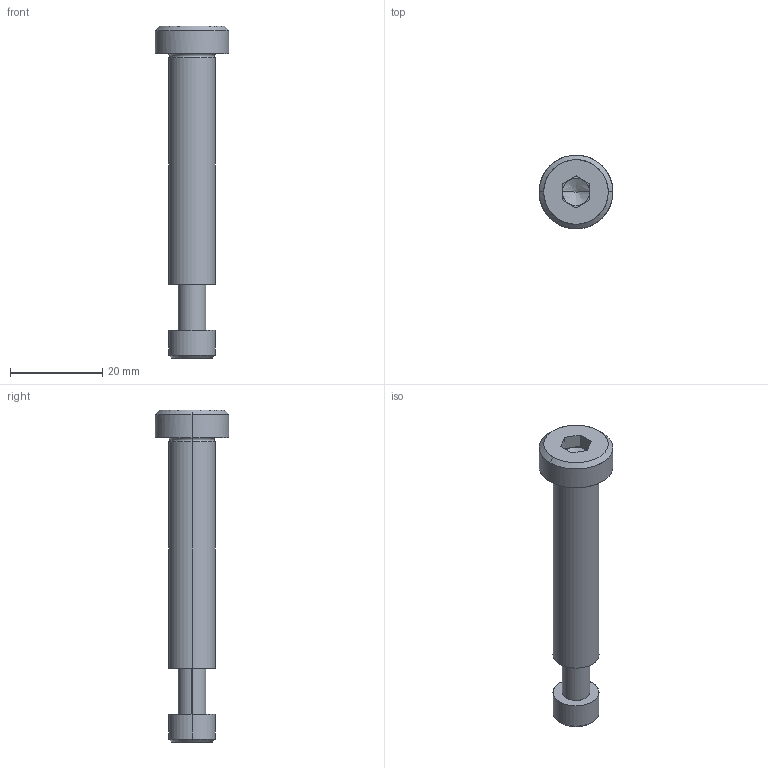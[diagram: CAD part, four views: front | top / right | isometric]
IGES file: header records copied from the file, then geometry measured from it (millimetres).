
Global section: file name: E:\UnigraphicsGraphicData\MISUMI_PRESS-PARTS\IGES\3d_sbtc10-50_05103_r00.igs; native system: NX V5.0; preprocessor: UGS NX IGES V5.0; author: MISUMI; date: 20110105.162443; units: millimetre
Bounding box: 16 x 16 x 72 mm (x, y, z)
Surface area: 3480.1 mm2 (no closed solid volume)
Topology: 0 solids, 0 shells, 52 faces, 280 edges, 276 vertices
Faces by surface type: bspline 52
